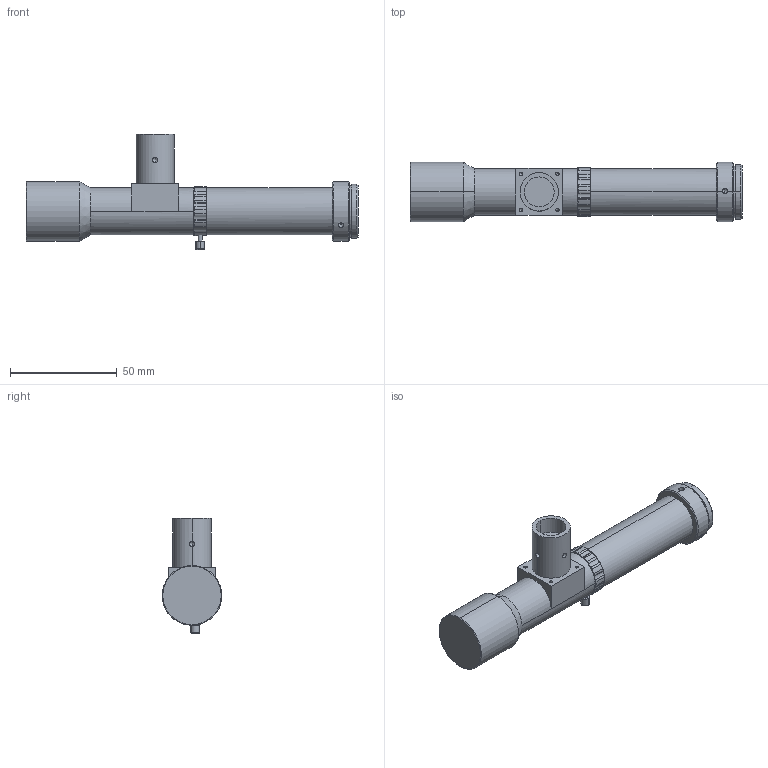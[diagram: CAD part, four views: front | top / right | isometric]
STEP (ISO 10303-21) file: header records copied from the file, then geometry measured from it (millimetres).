
FILE_DESCRIPTION (( 'STEP AP203' ), '1' );
FILE_NAME ('WWH20-110CT-G.STEP', '2019-11-22T02:35:27', ( 'Windows 蚚誧' ), ( '' ), 'SwSTEP 2.0', 'SolidWorks 2017', '' );
FILE_SCHEMA (( 'CONFIG_CONTROL_DESIGN' ));
Length unit declared in the file: millimetre
Products named in the file (1): WWH20-110CT-G
Bounding box: 155.7 x 28 x 53.99 mm (x, y, z)
Volume: 74739.1 mm3; surface area: 15625.9 mm2
Topology: 1 solids, 1 shells, 185 faces, 480 edges, 288 vertices
Faces by surface type: cylinder 91, cone 55, plane 37, bspline 2
Entity records: 6093 total; most frequent: CARTESIAN_POINT 1567, DIRECTION 993, ORIENTED_EDGE 916, EDGE_CURVE 458, AXIS2_PLACEMENT_3D 426, VERTEX_POINT 288, CIRCLE 242, EDGE_LOOP 200
